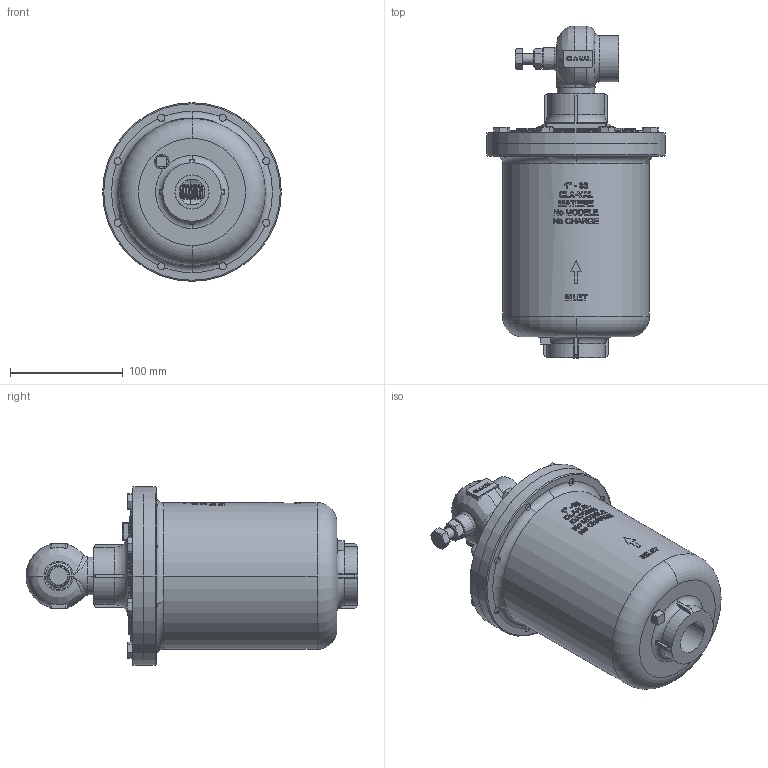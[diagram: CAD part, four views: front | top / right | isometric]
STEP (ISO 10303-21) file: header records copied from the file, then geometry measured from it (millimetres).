
FILE_DESCRIPTION (( 'STEP AP203' ), '1' );
FILE_NAME ('1in 33ATD Threaded Inlet.STEP', '2021-05-07T16:03:49', ( '' ), ( '' ), 'SwSTEP 2.0', 'SolidWorks 2019', '' );
FILE_SCHEMA (( 'CONFIG_CONTROL_DESIGN' ));
Length unit declared in the file: inch
Products named in the file (16): 33A-1po+TDe.stp; 300428.stp; 300431.stp; BGT1001.stp; ANSI B18.2.1 - 5_16-18 UNC - 0.75.stp; 00795F.stp; 1in 33ATD Threaded Inlet; 33Anpt1NAB.stp; 58839-11.stp; 300430-01.stp; ISO 7089 - 6 - 140 HV.stp; ISO 4032 - M6.stp; ISO 4032 - M10.stp; 300411-025-NM.stp; 300429-01.stp; 23525.stp
Assembly tree (22 placements, depth 4):
  1in 33ATD Threaded Inlet
    33A-1po+TDe.stp
      33Anpt1NAB.stp
        58839-11.stp
        23525.stp
        00795F.stp
        BGT1001.stp
        ANSI B18.2.1 - 5_16-18 UNC - 0.75.stp  x8
      300411-025-NM.stp
        300429-01.stp
        300430-01.stp
        ISO 4032 - M10.stp
        ISO 7089 - 6 - 140 HV.stp
        ISO 4032 - M6.stp
        300431.stp
        300428.stp
Bounding box: 158.8 x 294.97 x 158.8 mm (x, y, z)
Volume: 1184358.8 mm3; surface area: 274092.9 mm2
Topology: 19 solids, 19 shells, 1860 faces, 4782 edges, 3077 vertices
Faces by surface type: plane 881, bspline 418, cylinder 317, cone 146, torus 86, sphere 12
Entity records: 101153 total; most frequent: CARTESIAN_POINT 62118, ORIENTED_EDGE 8736, DIRECTION 6076, EDGE_CURVE 4368, VERTEX_POINT 2839, AXIS2_PLACEMENT_3D 2053, VECTOR 1970, LINE 1970
